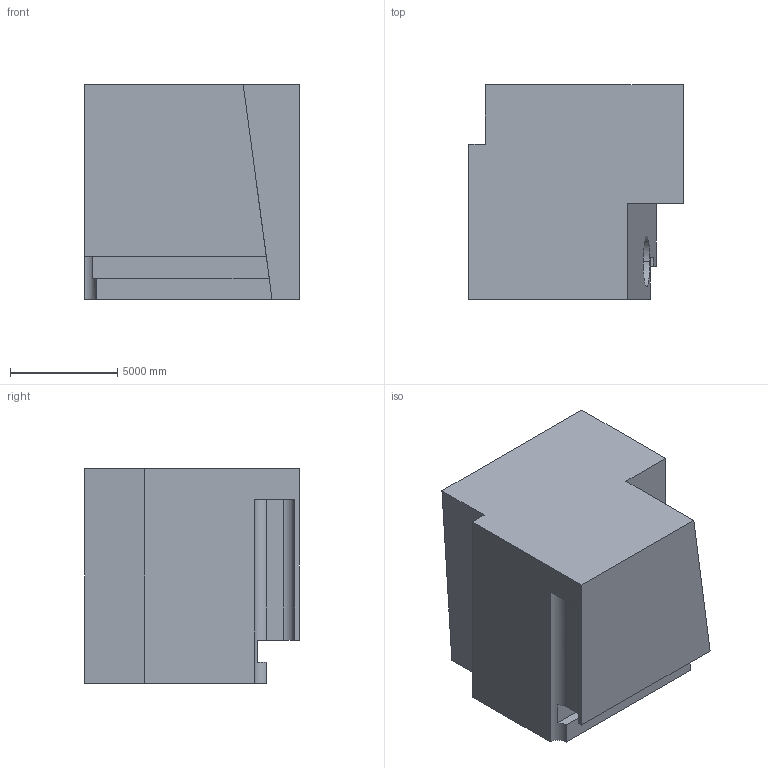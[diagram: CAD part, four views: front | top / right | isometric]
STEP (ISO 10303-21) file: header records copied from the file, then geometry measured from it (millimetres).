
FILE_DESCRIPTION (( 'STEP AP203' ), '1' );
FILE_NAME ('166.STEP', '2022-09-06T13:29:56', ( 'user' ), ( '' ), 'SwSTEP 2.0', 'SolidWorks 2021', '' );
FILE_SCHEMA (( 'CONFIG_CONTROL_DESIGN' ));
Length unit declared in the file: centimetre
Products named in the file (1): 166
Bounding box: 10000 x 10000 x 10000 mm (x, y, z)
Volume: 839864850386.3 mm3; surface area: 590193739.3 mm2
Topology: 1 solids, 1 shells, 26 faces, 69 edges, 46 vertices
Faces by surface type: plane 20, cylinder 6
Entity records: 882 total; most frequent: CARTESIAN_POINT 148, ORIENTED_EDGE 138, DIRECTION 133, EDGE_CURVE 69, LINE 55, VECTOR 55, VERTEX_POINT 46, AXIS2_PLACEMENT_3D 39
